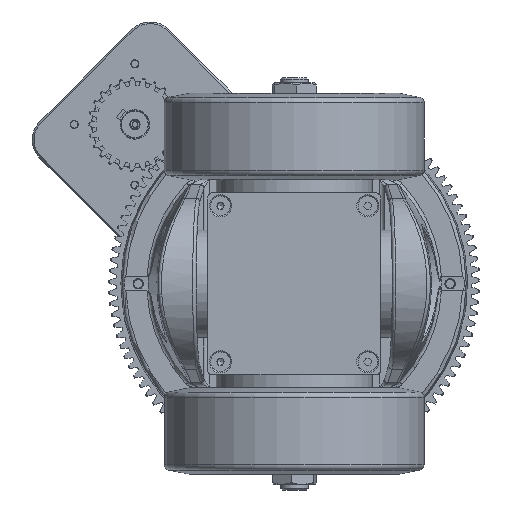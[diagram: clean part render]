
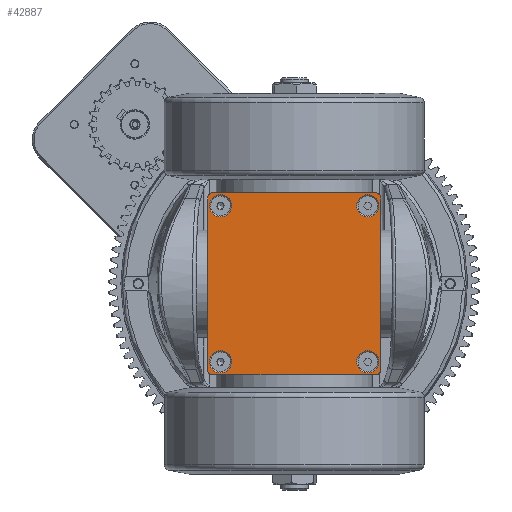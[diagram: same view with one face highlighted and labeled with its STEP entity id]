
A CAD part, front view. The second image highlights one B-rep face of the part: STEP entity #42887.
In plain terms, the highlighted planar face has unit normal (0, -1, 0).
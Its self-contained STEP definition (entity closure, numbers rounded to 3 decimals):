
#238 = CARTESIAN_POINT ( 'NONE',  ( 76.268, -50.768, 229.5 ) ) ;
#1293 = ORIENTED_EDGE ( 'NONE', *, *, #25233, .F. ) ;
#3042 = DIRECTION ( 'NONE',  ( -1., 0., 0. ) ) ;
#3057 = EDGE_CURVE ( 'NONE', #84594, #82245, #47367, .T. ) ;
#3370 = DIRECTION ( 'NONE',  ( -1., 0., 0. ) ) ;
#4241 = CARTESIAN_POINT ( 'NONE',  ( -17.732, -50.768, 229.5 ) ) ;
#6411 = AXIS2_PLACEMENT_3D ( 'NONE', #40264, #9370, #3042 ) ;
#6575 = VERTEX_POINT ( 'NONE', #19663 ) ;
#7172 = EDGE_CURVE ( 'NONE', #37208, #66857, #13726, .T. ) ;
#7602 = EDGE_CURVE ( 'NONE', #39582, #37208, #49295, .T. ) ;
#7821 = EDGE_CURVE ( 'NONE', #53168, #53168, #40763, .T. ) ;
#8881 = LINE ( 'NONE', #19657, #70819 ) ;
#9370 = DIRECTION ( 'NONE',  ( 0., 1., 0. ) ) ;
#10230 = CIRCLE ( 'NONE', #45214, 6.4 ) ;
#10344 = CARTESIAN_POINT ( 'NONE',  ( -13.232, -50.768, 225. ) ) ;
#10491 = ORIENTED_EDGE ( 'NONE', *, *, #7821, .F. ) ;
#12687 = LINE ( 'NONE', #65557, #83067 ) ;
#13073 = DIRECTION ( 'NONE',  ( -1., 0., 0. ) ) ;
#13726 = CIRCLE ( 'NONE', #74666, 3. ) ;
#15388 = EDGE_CURVE ( 'NONE', #84158, #84158, #49098, .T. ) ;
#15812 = ORIENTED_EDGE ( 'NONE', *, *, #76196, .F. ) ;
#16187 = DIRECTION ( 'NONE',  ( -1., 0., 0. ) ) ;
#16838 = CARTESIAN_POINT ( 'NONE',  ( 71.768, -50.768, 135. ) ) ;
#19083 = FACE_BOUND ( 'NONE', #95796, .T. ) ;
#19657 = CARTESIAN_POINT ( 'NONE',  ( -17.732, -50.768, 232.5 ) ) ;
#19663 = CARTESIAN_POINT ( 'NONE',  ( -19.632, -50.768, 225. ) ) ;
#20486 = CARTESIAN_POINT ( 'NONE',  ( 79.268, -50.768, 130.5 ) ) ;
#20564 = AXIS2_PLACEMENT_3D ( 'NONE', #63998, #93796, #94813 ) ;
#22956 = CARTESIAN_POINT ( 'NONE',  ( -20.732, -50.768, 130.5 ) ) ;
#24281 = VECTOR ( 'NONE', #28682, 1000. ) ;
#25138 = AXIS2_PLACEMENT_3D ( 'NONE', #47108, #47756, #69498 ) ;
#25233 = EDGE_CURVE ( 'NONE', #84855, #75250, #8881, .T. ) ;
#26636 = CARTESIAN_POINT ( 'NONE',  ( 79.268, -50.768, 229.5 ) ) ;
#26919 = EDGE_LOOP ( 'NONE', ( #56877 ) ) ;
#27189 = DIRECTION ( 'NONE',  ( 0., 1., 0. ) ) ;
#27899 = DIRECTION ( 'NONE',  ( 0., -1., 0. ) ) ;
#28533 = DIRECTION ( 'NONE',  ( -1., 0., 0. ) ) ;
#28682 = DIRECTION ( 'NONE',  ( 0., 0., -1. ) ) ;
#29929 = ORIENTED_EDGE ( 'NONE', *, *, #15388, .F. ) ;
#32414 = EDGE_CURVE ( 'NONE', #6575, #6575, #70866, .T. ) ;
#35289 = ORIENTED_EDGE ( 'NONE', *, *, #94408, .F. ) ;
#35477 = DIRECTION ( 'NONE',  ( 0., 0., 1. ) ) ;
#37208 = VERTEX_POINT ( 'NONE', #79869 ) ;
#37272 = EDGE_LOOP ( 'NONE', ( #29929 ) ) ;
#37710 = CARTESIAN_POINT ( 'NONE',  ( 76.268, -50.768, 232.5 ) ) ;
#39582 = VERTEX_POINT ( 'NONE', #26636 ) ;
#40264 = CARTESIAN_POINT ( 'NONE',  ( -17.732, -50.768, 130.5 ) ) ;
#40334 = EDGE_CURVE ( 'NONE', #52868, #52868, #10230, .T. ) ;
#40763 = CIRCLE ( 'NONE', #20564, 6.4 ) ;
#42887 = ADVANCED_FACE ( 'NONE', ( #90668, #19083, #70269, #99057, #88289 ), #64186, .F. ) ;
#43157 = CIRCLE ( 'NONE', #25138, 3. ) ;
#45214 = AXIS2_PLACEMENT_3D ( 'NONE', #16838, #92908, #16187 ) ;
#47108 = CARTESIAN_POINT ( 'NONE',  ( -17.732, -50.768, 229.5 ) ) ;
#47367 = CIRCLE ( 'NONE', #6411, 3. ) ;
#47756 = DIRECTION ( 'NONE',  ( 0., 1., 0. ) ) ;
#49098 = CIRCLE ( 'NONE', #95844, 6.4 ) ;
#49245 = CARTESIAN_POINT ( 'NONE',  ( 65.368, -50.768, 225. ) ) ;
#49295 = LINE ( 'NONE', #20486, #24281 ) ;
#51496 = CARTESIAN_POINT ( 'NONE',  ( 65.368, -50.768, 135. ) ) ;
#52868 = VERTEX_POINT ( 'NONE', #51496 ) ;
#53168 = VERTEX_POINT ( 'NONE', #86360 ) ;
#53468 = DIRECTION ( 'NONE',  ( -1., 0., 0. ) ) ;
#54137 = LINE ( 'NONE', #77680, #85227 ) ;
#55572 = DIRECTION ( 'NONE',  ( 0., -1., 0. ) ) ;
#56419 = EDGE_LOOP ( 'NONE', ( #10491 ) ) ;
#56657 = EDGE_CURVE ( 'NONE', #76265, #84855, #43157, .T. ) ;
#56877 = ORIENTED_EDGE ( 'NONE', *, *, #32414, .F. ) ;
#58968 = CARTESIAN_POINT ( 'NONE',  ( -17.732, -50.768, 127.5 ) ) ;
#59232 = CARTESIAN_POINT ( 'NONE',  ( -20.732, -50.768, 229.5 ) ) ;
#61434 = AXIS2_PLACEMENT_3D ( 'NONE', #4241, #27189, #73488 ) ;
#61909 = EDGE_LOOP ( 'NONE', ( #78672, #15812, #66756, #35289, #95421, #76108, #84199, #1293 ) ) ;
#62966 = CARTESIAN_POINT ( 'NONE',  ( -17.732, -50.768, 232.5 ) ) ;
#63247 = DIRECTION ( 'NONE',  ( -1., 0., 0. ) ) ;
#63998 = CARTESIAN_POINT ( 'NONE',  ( -13.232, -50.768, 135. ) ) ;
#64186 = PLANE ( 'NONE',  #61434 ) ;
#65051 = CIRCLE ( 'NONE', #97377, 3. ) ;
#65557 = CARTESIAN_POINT ( 'NONE',  ( -20.732, -50.768, 130.5 ) ) ;
#65584 = DIRECTION ( 'NONE',  ( 1., 0., 0. ) ) ;
#65985 = DIRECTION ( 'NONE',  ( 0., 1., 0. ) ) ;
#66756 = ORIENTED_EDGE ( 'NONE', *, *, #3057, .F. ) ;
#66857 = VERTEX_POINT ( 'NONE', #77280 ) ;
#69498 = DIRECTION ( 'NONE',  ( 1., 0., 0. ) ) ;
#70269 = FACE_BOUND ( 'NONE', #56419, .T. ) ;
#70819 = VECTOR ( 'NONE', #65584, 1000. ) ;
#70866 = CIRCLE ( 'NONE', #84426, 6.4 ) ;
#73488 = DIRECTION ( 'NONE',  ( 1., 0., 0. ) ) ;
#73573 = ORIENTED_EDGE ( 'NONE', *, *, #40334, .F. ) ;
#73640 = CARTESIAN_POINT ( 'NONE',  ( 76.268, -50.768, 130.5 ) ) ;
#74566 = CARTESIAN_POINT ( 'NONE',  ( 71.768, -50.768, 225. ) ) ;
#74666 = AXIS2_PLACEMENT_3D ( 'NONE', #73640, #65985, #13073 ) ;
#75250 = VERTEX_POINT ( 'NONE', #37710 ) ;
#76108 = ORIENTED_EDGE ( 'NONE', *, *, #7602, .F. ) ;
#76196 = EDGE_CURVE ( 'NONE', #82245, #76265, #12687, .T. ) ;
#76265 = VERTEX_POINT ( 'NONE', #59232 ) ;
#77280 = CARTESIAN_POINT ( 'NONE',  ( 76.268, -50.768, 127.5 ) ) ;
#77680 = CARTESIAN_POINT ( 'NONE',  ( -17.732, -50.768, 127.5 ) ) ;
#78672 = ORIENTED_EDGE ( 'NONE', *, *, #56657, .F. ) ;
#79869 = CARTESIAN_POINT ( 'NONE',  ( 79.268, -50.768, 130.5 ) ) ;
#82245 = VERTEX_POINT ( 'NONE', #22956 ) ;
#83067 = VECTOR ( 'NONE', #35477, 1000. ) ;
#83590 = DIRECTION ( 'NONE',  ( 0., 1., 0. ) ) ;
#84158 = VERTEX_POINT ( 'NONE', #49245 ) ;
#84199 = ORIENTED_EDGE ( 'NONE', *, *, #87666, .F. ) ;
#84426 = AXIS2_PLACEMENT_3D ( 'NONE', #10344, #55572, #63247 ) ;
#84594 = VERTEX_POINT ( 'NONE', #58968 ) ;
#84855 = VERTEX_POINT ( 'NONE', #62966 ) ;
#85227 = VECTOR ( 'NONE', #3370, 1000. ) ;
#86360 = CARTESIAN_POINT ( 'NONE',  ( -19.632, -50.768, 135. ) ) ;
#87666 = EDGE_CURVE ( 'NONE', #75250, #39582, #65051, .T. ) ;
#88289 = FACE_OUTER_BOUND ( 'NONE', #61909, .T. ) ;
#90668 = FACE_BOUND ( 'NONE', #37272, .T. ) ;
#92908 = DIRECTION ( 'NONE',  ( 0., -1., 0. ) ) ;
#93796 = DIRECTION ( 'NONE',  ( 0., -1., 0. ) ) ;
#94408 = EDGE_CURVE ( 'NONE', #66857, #84594, #54137, .T. ) ;
#94813 = DIRECTION ( 'NONE',  ( -1., 0., 0. ) ) ;
#95421 = ORIENTED_EDGE ( 'NONE', *, *, #7172, .F. ) ;
#95796 = EDGE_LOOP ( 'NONE', ( #73573 ) ) ;
#95844 = AXIS2_PLACEMENT_3D ( 'NONE', #74566, #27899, #28533 ) ;
#97377 = AXIS2_PLACEMENT_3D ( 'NONE', #238, #83590, #53468 ) ;
#99057 = FACE_BOUND ( 'NONE', #26919, .T. ) ;
